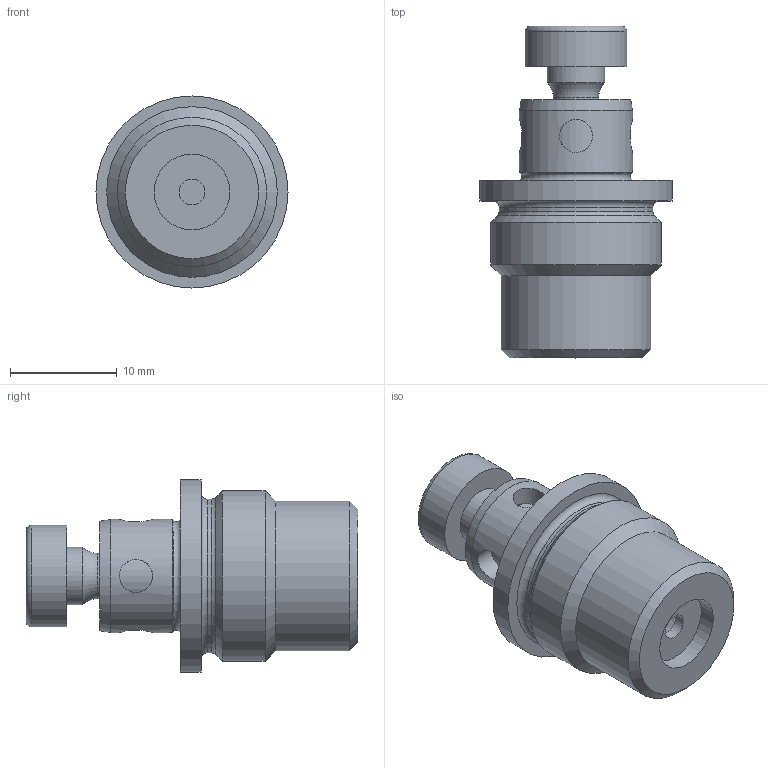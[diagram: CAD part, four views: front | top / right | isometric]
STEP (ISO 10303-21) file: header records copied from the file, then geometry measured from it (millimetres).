
FILE_DESCRIPTION( ( 'STEP AP214' ), '1' );
FILE_NAME( 'p:/temp/worker_138/temp/app_40_02019011708150398502919192d056f_000000_00_00_000000/format_5/AMF559090.stp', '2019-01-17T07:15:22', ( '' ), ( '' ), ' ', 'PARTsolutions', ' ' );
FILE_SCHEMA( ( 'AUTOMOTIVE_DESIGN { 1 0 10303 214 1 1 1 1 }' ) );
Length unit declared in the file: millimetre
Products named in the file (3): AMF559090; _AMF559090_01; _AMF559090_02
Assembly tree (2 placements, depth 2):
  AMF559090
    _AMF559090_01
    _AMF559090_02
Bounding box: 18 x 31.1 x 18 mm (x, y, z)
Volume: 3389.1 mm3; surface area: 2685.7 mm2
Topology: 2 solids, 2 shells, 47 faces, 92 edges, 56 vertices
Faces by surface type: cylinder 21, plane 13, cone 7, torus 6
Full cylindrical faces by diameter (mm): 2.1 x4, 2.4 x1, 3.1 x4, 4.26 x1, 5.4 x1, 5.6 x1, 7 x1, 7.1 x2, 9.5 x1, 10.6 x1, 14 x1, 14.4 x1, 16 x1, 18 x1
Entity records: 1808 total; most frequent: CARTESIAN_POINT 558, DIRECTION 184, EDGE_LOOP 100, ORIENTED_EDGE 100, AXIS2_PLACEMENT_3D 92, FACE_OUTER_BOUND 74, EDGE_CURVE 50, VERTEX_POINT 50
